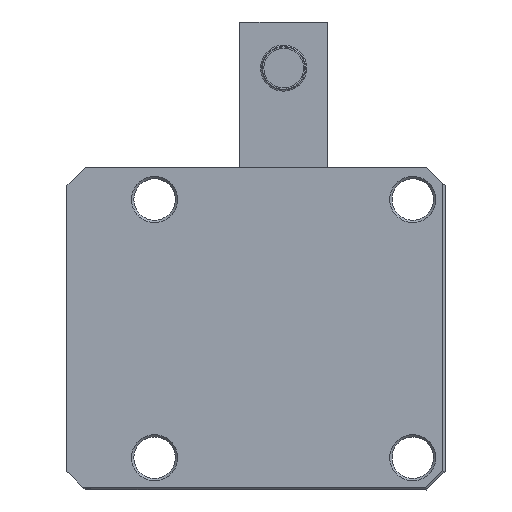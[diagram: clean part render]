
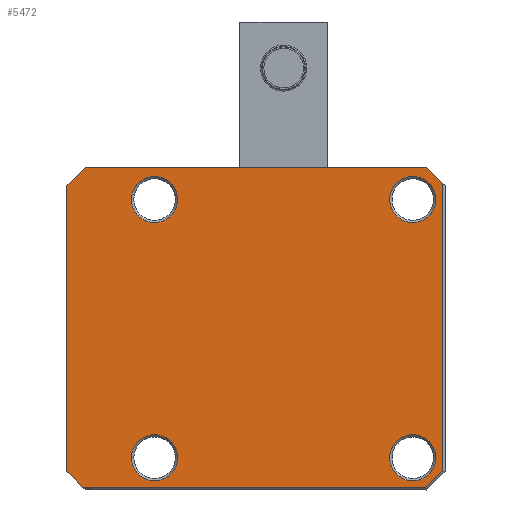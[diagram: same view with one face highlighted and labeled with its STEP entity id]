
A CAD part, front view. The second image highlights one B-rep face of the part: STEP entity #5472.
In plain terms, the highlighted planar face has unit normal (0, -1, 0).
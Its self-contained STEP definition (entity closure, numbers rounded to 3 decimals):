
#138=PLANE('',#6131);
#242=FACE_BOUND('',#769,.T.);
#243=FACE_BOUND('',#770,.T.);
#244=FACE_BOUND('',#771,.T.);
#245=FACE_BOUND('',#772,.T.);
#434=FACE_OUTER_BOUND('',#768,.T.);
#768=EDGE_LOOP('',(#3819,#3820,#3821,#3822,#3823,#3824,#3825,#3826,#3827));
#769=EDGE_LOOP('',(#3828));
#770=EDGE_LOOP('',(#3829));
#771=EDGE_LOOP('',(#3830));
#772=EDGE_LOOP('',(#3831));
#1150=LINE('',#9053,#1553);
#1158=LINE('',#9071,#1561);
#1161=LINE('',#9077,#1564);
#1162=LINE('',#9079,#1565);
#1163=LINE('',#9081,#1566);
#1164=LINE('',#9085,#1567);
#1165=LINE('',#9087,#1568);
#1166=LINE('',#9088,#1569);
#1553=VECTOR('',#6987,1000.);
#1561=VECTOR('',#7003,1000.);
#1564=VECTOR('',#7008,1000.);
#1565=VECTOR('',#7009,1000.);
#1566=VECTOR('',#7010,1000.);
#1567=VECTOR('',#7013,1000.);
#1568=VECTOR('',#7014,1000.);
#1569=VECTOR('',#7015,1000.);
#1921=CIRCLE('',#6069,5.);
#1924=CIRCLE('',#6073,5.);
#1927=CIRCLE('',#6077,5.);
#1930=CIRCLE('',#6081,5.);
#1956=CIRCLE('',#6132,55.5);
#2312=VERTEX_POINT('',#8742);
#2315=VERTEX_POINT('',#8750);
#2318=VERTEX_POINT('',#8758);
#2321=VERTEX_POINT('',#8766);
#2373=VERTEX_POINT('',#9050);
#2374=VERTEX_POINT('',#9052);
#2380=VERTEX_POINT('',#9070);
#2382=VERTEX_POINT('',#9076);
#2383=VERTEX_POINT('',#9078);
#2384=VERTEX_POINT('',#9080);
#2385=VERTEX_POINT('',#9082);
#2386=VERTEX_POINT('',#9084);
#2387=VERTEX_POINT('',#9086);
#2847=EDGE_CURVE('',#2312,#2312,#1921,.T.);
#2851=EDGE_CURVE('',#2315,#2315,#1924,.T.);
#2855=EDGE_CURVE('',#2318,#2318,#1927,.T.);
#2859=EDGE_CURVE('',#2321,#2321,#1930,.T.);
#2929=EDGE_CURVE('',#2373,#2374,#1150,.T.);
#2938=EDGE_CURVE('',#2380,#2374,#1158,.T.);
#2941=EDGE_CURVE('',#2373,#2382,#1161,.T.);
#2942=EDGE_CURVE('',#2382,#2383,#1162,.T.);
#2943=EDGE_CURVE('',#2383,#2384,#1163,.T.);
#2944=EDGE_CURVE('',#2384,#2385,#1956,.T.);
#2945=EDGE_CURVE('',#2385,#2386,#1164,.T.);
#2946=EDGE_CURVE('',#2386,#2387,#1165,.T.);
#2947=EDGE_CURVE('',#2387,#2380,#1166,.T.);
#3819=ORIENTED_EDGE('',*,*,#2938,.T.);
#3820=ORIENTED_EDGE('',*,*,#2929,.F.);
#3821=ORIENTED_EDGE('',*,*,#2941,.T.);
#3822=ORIENTED_EDGE('',*,*,#2942,.T.);
#3823=ORIENTED_EDGE('',*,*,#2943,.T.);
#3824=ORIENTED_EDGE('',*,*,#2944,.T.);
#3825=ORIENTED_EDGE('',*,*,#2945,.T.);
#3826=ORIENTED_EDGE('',*,*,#2946,.T.);
#3827=ORIENTED_EDGE('',*,*,#2947,.T.);
#3828=ORIENTED_EDGE('',*,*,#2847,.T.);
#3829=ORIENTED_EDGE('',*,*,#2851,.T.);
#3830=ORIENTED_EDGE('',*,*,#2855,.T.);
#3831=ORIENTED_EDGE('',*,*,#2859,.T.);
#5472=ADVANCED_FACE('',(#434,#242,#243,#244,#245),#138,.T.);
#6069=AXIS2_PLACEMENT_3D('',#8744,#6834,#6835);
#6073=AXIS2_PLACEMENT_3D('',#8752,#6843,#6844);
#6077=AXIS2_PLACEMENT_3D('',#8760,#6852,#6853);
#6081=AXIS2_PLACEMENT_3D('',#8768,#6861,#6862);
#6131=AXIS2_PLACEMENT_3D('',#9075,#7006,#7007);
#6132=AXIS2_PLACEMENT_3D('',#9083,#7011,#7012);
#6834=DIRECTION('center_axis',(0.,1.,0.));
#6835=DIRECTION('ref_axis',(0.,0.,-1.));
#6843=DIRECTION('center_axis',(0.,1.,0.));
#6844=DIRECTION('ref_axis',(0.,0.,-1.));
#6852=DIRECTION('center_axis',(0.,1.,0.));
#6853=DIRECTION('ref_axis',(0.,0.,-1.));
#6861=DIRECTION('center_axis',(0.,1.,0.));
#6862=DIRECTION('ref_axis',(1.,0.,0.));
#6987=DIRECTION('',(1.,0.,0.));
#7003=DIRECTION('',(-0.707,0.,0.707));
#7006=DIRECTION('center_axis',(0.,-1.,0.));
#7007=DIRECTION('ref_axis',(0.,0.,-1.));
#7008=DIRECTION('',(-0.707,0.,-0.707));
#7009=DIRECTION('',(0.,0.,-1.));
#7010=DIRECTION('',(0.707,0.,-0.707));
#7011=DIRECTION('center_axis',(0.,1.,0.));
#7012=DIRECTION('ref_axis',(0.,0.,-1.));
#7013=DIRECTION('',(1.,0.,0.));
#7014=DIRECTION('',(0.707,0.,0.707));
#7015=DIRECTION('',(0.,0.,1.));
#8742=CARTESIAN_POINT('',(427.71,103.516,33.));
#8744=CARTESIAN_POINT('Origin',(427.71,103.516,28.));
#8750=CARTESIAN_POINT('',(483.71,103.516,33.));
#8752=CARTESIAN_POINT('Origin',(483.71,103.516,28.));
#8758=CARTESIAN_POINT('',(483.71,103.516,-23.));
#8760=CARTESIAN_POINT('Origin',(483.71,103.516,-28.));
#8766=CARTESIAN_POINT('',(422.71,103.516,-28.));
#8768=CARTESIAN_POINT('Origin',(427.71,103.516,-28.));
#9050=CARTESIAN_POINT('',(412.71,103.516,35.));
#9052=CARTESIAN_POINT('',(486.71,103.516,35.));
#9053=CARTESIAN_POINT('',(412.71,103.516,35.));
#9070=CARTESIAN_POINT('',(490.21,103.516,31.5));
#9071=CARTESIAN_POINT('',(490.71,103.516,31.));
#9075=CARTESIAN_POINT('Origin',(408.71,103.516,35.));
#9076=CARTESIAN_POINT('',(408.71,103.516,31.));
#9077=CARTESIAN_POINT('',(412.71,103.516,35.));
#9078=CARTESIAN_POINT('',(408.71,103.516,-31.));
#9079=CARTESIAN_POINT('',(408.71,103.516,35.));
#9080=CARTESIAN_POINT('',(412.337,103.516,-34.627));
#9081=CARTESIAN_POINT('',(408.71,103.516,-31.));
#9082=CARTESIAN_POINT('',(412.236,103.516,-34.5));
#9083=CARTESIAN_POINT('Origin',(455.71,103.516,0.));
#9084=CARTESIAN_POINT('',(486.503,103.516,-34.5));
#9085=CARTESIAN_POINT('',(408.71,103.516,-34.5));
#9086=CARTESIAN_POINT('',(490.21,103.516,-30.793));
#9087=CARTESIAN_POINT('',(486.503,103.516,-34.5));
#9088=CARTESIAN_POINT('',(490.21,103.516,35.));
